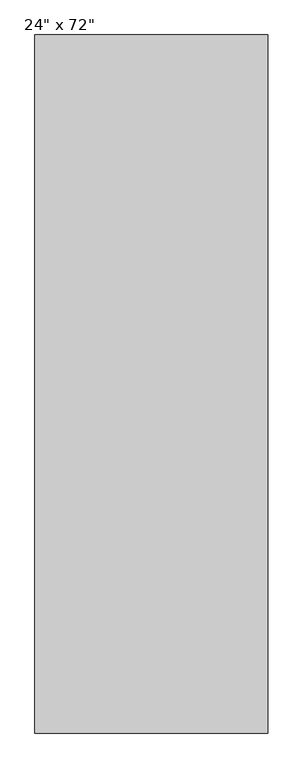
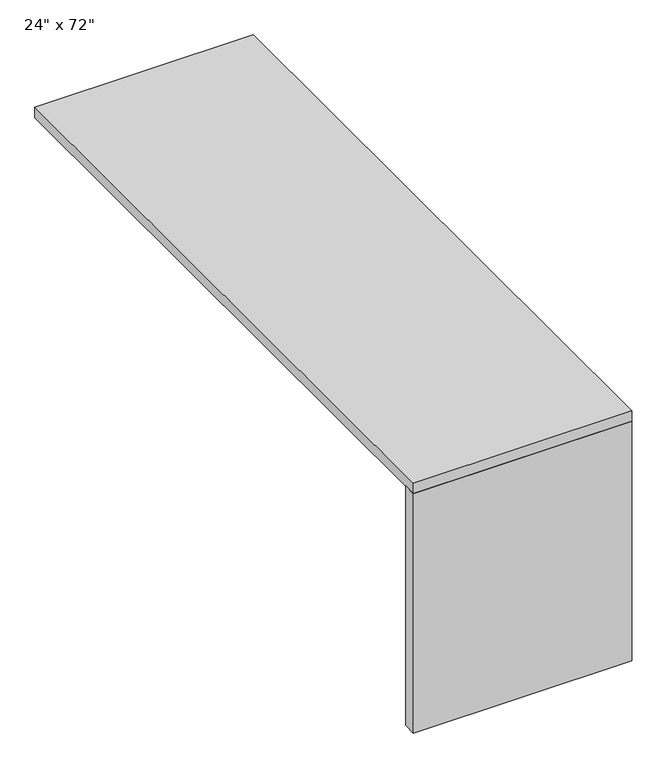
"""IFC4 building model written with IfcOpenShell, lengths in millimetres: furniture geometry."""

from ifc_helpers import new_model, si_unit, frame, origin, origin_with_axes, place, context, project, spatial, polyline, outline, extrude, source, transform, mapped, element, save


def furniture_6f7b0d15(model_context):
    return source(origin(), model_context, "Body", "SweptSolid", [
        extrude(outline(polyline([(-304.8, -876.3), (304.8, -876.3), (304.8, -914.4), (-304.8, -914.4), (-304.8, -876.3)])), origin_with_axes(), (0.0, 0.0, 1.0), 706.4375),
        extrude(outline(polyline([(-304.8, -914.4), (-304.8, 914.4), (304.8, 914.4), (304.8, -914.4), (-304.8, -914.4)])), frame((0.0, 0.0, 706.4375), z_axis=(0.0, 0.0, 1.0), x_axis=(1.0, 0.0, 0.0)), (0.0, 0.0, 1.0), 30.1625),
    ])


if __name__ == "__main__":
    model = new_model("IFC4")
    model_context = context("Model", 3, world=origin())
    ifc_project = project(units=[si_unit("LENGTHUNIT", "METRE", prefix="MILLI")], contexts=[model_context])
    site = spatial("IfcSite", under=ifc_project)
    building = spatial("IfcBuilding", under=site)
    placement = place(None, origin())
    furniture_shape = furniture_6f7b0d15(model_context)
    element("IfcFurniture", 1, ObjectType="Haworth_Worksurface_Compose-Convergent_Rectangular : 24\" x 72\"", at=placement, inside=building, context=model_context, shape_type="MappedRepresentation", body=[
        mapped(furniture_shape, transform((0.0, 0.0, 0.0), x_axis=(1.0, 0.0, 0.0), y_axis=(0.0, 1.0, 0.0), z_axis=(0.0, 0.0, 1.0))),
    ])
    save(model, "model.ifc")
